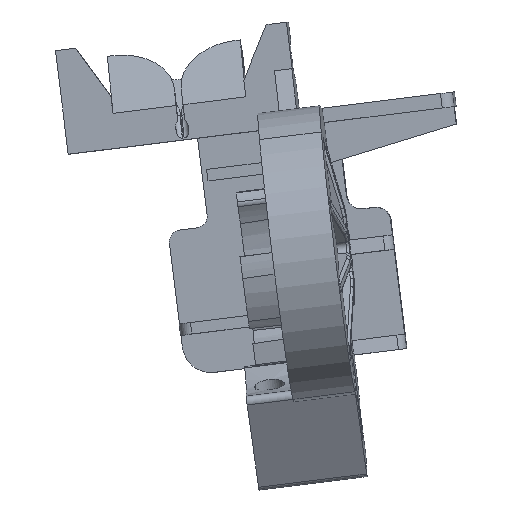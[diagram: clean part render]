
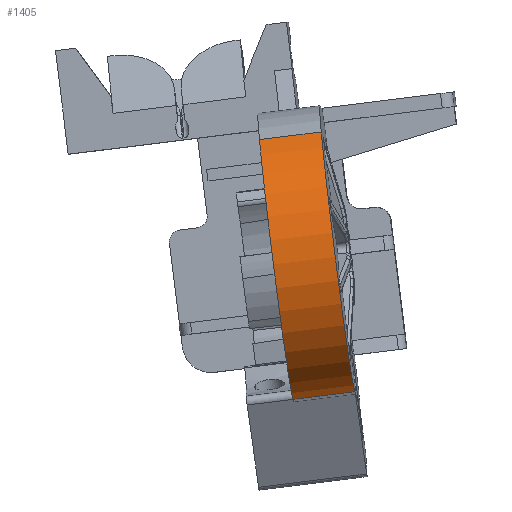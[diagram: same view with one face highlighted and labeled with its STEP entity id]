
A CAD part, front view. The second image highlights one B-rep face of the part: STEP entity #1405.
In plain terms, the highlighted cylindrical face has radius 24.95 mm (diameter 49.9 mm), a partial arc.
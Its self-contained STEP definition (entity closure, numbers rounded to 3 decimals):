
#1378=AXIS2_PLACEMENT_3D('Cylinder Axis2P3D',#1375,#1376,#1377) ;
#1382=AXIS2_PLACEMENT_3D('Circle Axis2P3D',#1380,#1381,$) ;
#1396=AXIS2_PLACEMENT_3D('Circle Axis2P3D',#1394,#1395,$) ;
#1331=CARTESIAN_POINT('Vertex',(1135.702,-935.803,238.344)) ;
#1335=CARTESIAN_POINT('Control Point',(1125.085,-935.552,237.03)) ;
#1336=CARTESIAN_POINT('Control Point',(1135.702,-935.803,238.344)) ;
#1337=CARTESIAN_POINT('Vertex',(1125.085,-935.552,237.03)) ;
#1375=CARTESIAN_POINT('Axis2P3D Location',(1110.57,-930.726,259.952)) ;
#1380=CARTESIAN_POINT('Axis2P3D Location',(1132.794,-931.25,262.703)) ;
#1384=CARTESIAN_POINT('Vertex',(1129.949,-945.531,282.963)) ;
#1387=CARTESIAN_POINT('Line Origine',(1107.725,-945.006,280.212)) ;
#1391=CARTESIAN_POINT('Vertex',(1119.333,-945.28,281.649)) ;
#1394=CARTESIAN_POINT('Axis2P3D Location',(1122.178,-931.,261.388)) ;
#1376=DIRECTION('Axis2P3D Direction',(0.992,-0.023,0.123)) ;
#1377=DIRECTION('Axis2P3D XDirection',(-0.114,-0.572,0.812)) ;
#1381=DIRECTION('Axis2P3D Direction',(0.992,-0.023,0.123)) ;
#1388=DIRECTION('Vector Direction',(0.992,-0.023,0.123)) ;
#1395=DIRECTION('Axis2P3D Direction',(0.992,-0.023,0.123)) ;
#1389=VECTOR('Line Direction',#1388,1.) ;
#1400=ORIENTED_EDGE('',*,*,#1339,.T.) ;
#1401=ORIENTED_EDGE('',*,*,#1386,.F.) ;
#1402=ORIENTED_EDGE('',*,*,#1393,.F.) ;
#1403=ORIENTED_EDGE('',*,*,#1398,.F.) ;
#1405=ADVANCED_FACE('20200707\X2\66F465B0\X0\',(#1404),#1379,.T.) ;
#1334=B_SPLINE_CURVE_WITH_KNOTS('',1,(#1335,#1336),.UNSPECIFIED.,.F.,.U.,(2,2),(10.881,21.581),.UNSPECIFIED.) ;
#1383=CIRCLE('generated circle',#1382,24.95) ;
#1397=CIRCLE('generated circle',#1396,24.95) ;
#1379=CYLINDRICAL_SURFACE('generated cylinder',#1378,24.95) ;
#1339=EDGE_CURVE('',#1338,#1332,#1334,.T.) ;
#1386=EDGE_CURVE('',#1385,#1332,#1383,.T.) ;
#1393=EDGE_CURVE('',#1392,#1385,#1390,.T.) ;
#1398=EDGE_CURVE('',#1338,#1392,#1397,.F.) ;
#1399=EDGE_LOOP('',(#1400,#1401,#1402,#1403)) ;
#1404=FACE_OUTER_BOUND('',#1399,.T.) ;
#1390=LINE('Line',#1387,#1389) ;
#1332=VERTEX_POINT('',#1331) ;
#1338=VERTEX_POINT('',#1337) ;
#1385=VERTEX_POINT('',#1384) ;
#1392=VERTEX_POINT('',#1391) ;
